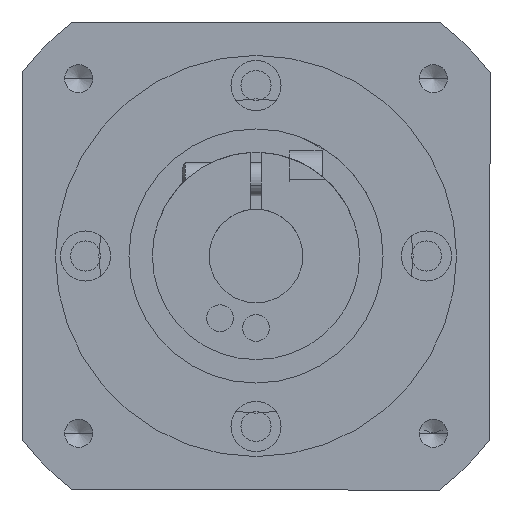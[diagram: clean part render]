
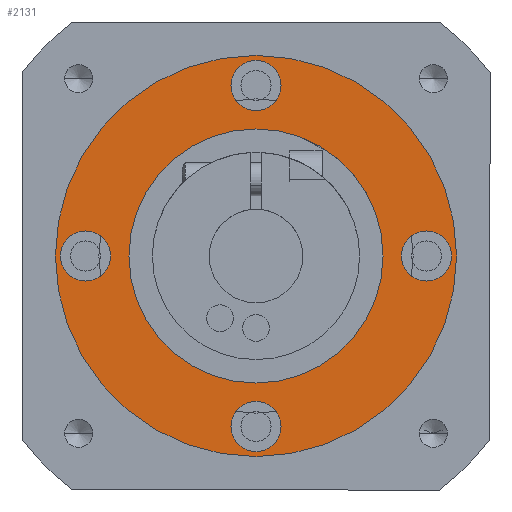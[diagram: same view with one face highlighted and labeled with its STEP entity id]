
A CAD part, front view. The second image highlights one B-rep face of the part: STEP entity #2131.
In plain terms, the highlighted planar face has unit normal (0, -1, 0) as drawn and (0, 0, -1) by its records, which use the part's own axes.
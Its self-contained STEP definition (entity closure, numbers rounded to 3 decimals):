
#125 = CARTESIAN_POINT ( 'NONE',  ( 0., 0., -17.5 ) ) ;
#132 = VERTEX_POINT ( 'NONE', #1446 ) ;
#208 = CARTESIAN_POINT ( 'NONE',  ( -25.5, 0., -17.5 ) ) ;
#265 = CARTESIAN_POINT ( 'NONE',  ( 0., -25.5, -17.5 ) ) ;
#336 = EDGE_CURVE ( 'NONE', #132, #1273, #7730, .T. ) ;
#480 = EDGE_LOOP ( 'NONE', ( #8287, #1476 ) ) ;
#507 = EDGE_CURVE ( 'NONE', #5458, #3263, #1669, .T. ) ;
#509 = AXIS2_PLACEMENT_3D ( 'NONE', #4127, #9817, #4950 ) ;
#687 = CARTESIAN_POINT ( 'NONE',  ( 0., 0., -17.5 ) ) ;
#744 = CIRCLE ( 'NONE', #7237, 3.75 ) ;
#904 = DIRECTION ( 'NONE',  ( 1., 0., 0. ) ) ;
#984 = AXIS2_PLACEMENT_3D ( 'NONE', #2130, #6976, #2975 ) ;
#1055 = DIRECTION ( 'NONE',  ( -1., 0., 0. ) ) ;
#1090 = CARTESIAN_POINT ( 'NONE',  ( 30., 0., -17.5 ) ) ;
#1100 = EDGE_CURVE ( 'NONE', #1273, #132, #744, .T. ) ;
#1273 = VERTEX_POINT ( 'NONE', #5628 ) ;
#1446 = CARTESIAN_POINT ( 'NONE',  ( -3.75, 25.5, -17.5 ) ) ;
#1453 = EDGE_CURVE ( 'NONE', #9271, #7217, #5996, .T. ) ;
#1476 = ORIENTED_EDGE ( 'NONE', *, *, #1100, .F. ) ;
#1514 = DIRECTION ( 'NONE',  ( 0., 0., -1. ) ) ;
#1669 = CIRCLE ( 'NONE', #8427, 30. ) ;
#1686 = AXIS2_PLACEMENT_3D ( 'NONE', #208, #9849, #4169 ) ;
#1755 = CARTESIAN_POINT ( 'NONE',  ( 19., 0., -17.5 ) ) ;
#1923 = VERTEX_POINT ( 'NONE', #1755 ) ;
#2034 = DIRECTION ( 'NONE',  ( 0., 0., 1. ) ) ;
#2093 = CIRCLE ( 'NONE', #1686, 3.75 ) ;
#2099 = FACE_BOUND ( 'NONE', #7232, .T. ) ;
#2130 = CARTESIAN_POINT ( 'NONE',  ( 0., -19., -17.5 ) ) ;
#2131 = ADVANCED_FACE ( 'NONE', ( #6375, #2099, #4462, #10440, #8277, #6116 ), #2165, .T. ) ;
#2165 = PLANE ( 'NONE',  #984 ) ;
#2205 = EDGE_LOOP ( 'NONE', ( #7169, #2613 ) ) ;
#2206 = DIRECTION ( 'NONE',  ( 0., 0., -1. ) ) ;
#2613 = ORIENTED_EDGE ( 'NONE', *, *, #8467, .F. ) ;
#2616 = VERTEX_POINT ( 'NONE', #2734 ) ;
#2674 = EDGE_CURVE ( 'NONE', #2616, #7404, #2093, .T. ) ;
#2734 = CARTESIAN_POINT ( 'NONE',  ( -29.25, 0., -17.5 ) ) ;
#2975 = DIRECTION ( 'NONE',  ( -1., 0., 0. ) ) ;
#2992 = DIRECTION ( 'NONE',  ( 0., 0., -1. ) ) ;
#3121 = AXIS2_PLACEMENT_3D ( 'NONE', #6319, #1514, #7140 ) ;
#3223 = AXIS2_PLACEMENT_3D ( 'NONE', #265, #5861, #1055 ) ;
#3263 = VERTEX_POINT ( 'NONE', #1090 ) ;
#3494 = CARTESIAN_POINT ( 'NONE',  ( 25.5, 0., -17.5 ) ) ;
#3513 = AXIS2_PLACEMENT_3D ( 'NONE', #125, #5715, #904 ) ;
#3542 = CARTESIAN_POINT ( 'NONE',  ( -30., 0., -17.5 ) ) ;
#3572 = CARTESIAN_POINT ( 'NONE',  ( 21.75, 0., -17.5 ) ) ;
#3741 = CARTESIAN_POINT ( 'NONE',  ( 0., 0., -17.5 ) ) ;
#3786 = EDGE_CURVE ( 'NONE', #8424, #1923, #4068, .T. ) ;
#4034 = CIRCLE ( 'NONE', #6818, 3.75 ) ;
#4068 = CIRCLE ( 'NONE', #6467, 19. ) ;
#4118 = CARTESIAN_POINT ( 'NONE',  ( 0., 25.5, -17.5 ) ) ;
#4122 = VERTEX_POINT ( 'NONE', #8357 ) ;
#4127 = CARTESIAN_POINT ( 'NONE',  ( -25.5, 0., -17.5 ) ) ;
#4128 = EDGE_LOOP ( 'NONE', ( #6112, #6707 ) ) ;
#4169 = DIRECTION ( 'NONE',  ( -1., 0., 0. ) ) ;
#4281 = DIRECTION ( 'NONE',  ( -1., 0., 0. ) ) ;
#4419 = CIRCLE ( 'NONE', #3121, 3.75 ) ;
#4462 = FACE_BOUND ( 'NONE', #4128, .T. ) ;
#4541 = DIRECTION ( 'NONE',  ( 1., 0., 0. ) ) ;
#4601 = AXIS2_PLACEMENT_3D ( 'NONE', #7830, #2992, #8624 ) ;
#4636 = EDGE_CURVE ( 'NONE', #3263, #5458, #8007, .T. ) ;
#4939 = DIRECTION ( 'NONE',  ( -1., 0., 0. ) ) ;
#4950 = DIRECTION ( 'NONE',  ( -1., 0., 0. ) ) ;
#4991 = ORIENTED_EDGE ( 'NONE', *, *, #507, .F. ) ;
#5000 = EDGE_CURVE ( 'NONE', #1923, #8424, #7358, .T. ) ;
#5170 = EDGE_CURVE ( 'NONE', #7994, #4122, #4419, .T. ) ;
#5359 = AXIS2_PLACEMENT_3D ( 'NONE', #4118, #9804, #4939 ) ;
#5458 = VERTEX_POINT ( 'NONE', #3542 ) ;
#5494 = DIRECTION ( 'NONE',  ( 1., 0., 0. ) ) ;
#5628 = CARTESIAN_POINT ( 'NONE',  ( 3.75, 25.5, -17.5 ) ) ;
#5715 = DIRECTION ( 'NONE',  ( 0., 0., 1. ) ) ;
#5861 = DIRECTION ( 'NONE',  ( 0., 0., -1. ) ) ;
#5994 = EDGE_CURVE ( 'NONE', #4122, #7994, #4034, .T. ) ;
#5996 = CIRCLE ( 'NONE', #3223, 3.75 ) ;
#6112 = ORIENTED_EDGE ( 'NONE', *, *, #5170, .F. ) ;
#6116 = FACE_OUTER_BOUND ( 'NONE', #10377, .T. ) ;
#6160 = EDGE_LOOP ( 'NONE', ( #7736, #7124 ) ) ;
#6284 = CARTESIAN_POINT ( 'NONE',  ( -3.75, -25.5, -17.5 ) ) ;
#6319 = CARTESIAN_POINT ( 'NONE',  ( 25.5, 0., -17.5 ) ) ;
#6372 = ORIENTED_EDGE ( 'NONE', *, *, #4636, .F. ) ;
#6375 = FACE_BOUND ( 'NONE', #2205, .T. ) ;
#6403 = ORIENTED_EDGE ( 'NONE', *, *, #1453, .F. ) ;
#6437 = CARTESIAN_POINT ( 'NONE',  ( 3.75, -25.5, -17.5 ) ) ;
#6467 = AXIS2_PLACEMENT_3D ( 'NONE', #687, #7213, #5494 ) ;
#6506 = CARTESIAN_POINT ( 'NONE',  ( -19., 0., -17.5 ) ) ;
#6707 = ORIENTED_EDGE ( 'NONE', *, *, #5994, .F. ) ;
#6818 = AXIS2_PLACEMENT_3D ( 'NONE', #3494, #9157, #4281 ) ;
#6839 = CARTESIAN_POINT ( 'NONE',  ( 0., 0., -17.5 ) ) ;
#6976 = DIRECTION ( 'NONE',  ( 0., 0., -1. ) ) ;
#7014 = CARTESIAN_POINT ( 'NONE',  ( 0., 25.5, -17.5 ) ) ;
#7124 = ORIENTED_EDGE ( 'NONE', *, *, #3786, .T. ) ;
#7140 = DIRECTION ( 'NONE',  ( -1., 0., 0. ) ) ;
#7169 = ORIENTED_EDGE ( 'NONE', *, *, #2674, .F. ) ;
#7213 = DIRECTION ( 'NONE',  ( 0., 0., 1. ) ) ;
#7217 = VERTEX_POINT ( 'NONE', #6437 ) ;
#7232 = EDGE_LOOP ( 'NONE', ( #6403, #7483 ) ) ;
#7237 = AXIS2_PLACEMENT_3D ( 'NONE', #7014, #2206, #7846 ) ;
#7358 = CIRCLE ( 'NONE', #8178, 19. ) ;
#7404 = VERTEX_POINT ( 'NONE', #8378 ) ;
#7483 = ORIENTED_EDGE ( 'NONE', *, *, #8739, .F. ) ;
#7645 = CIRCLE ( 'NONE', #4601, 3.75 ) ;
#7674 = DIRECTION ( 'NONE',  ( 1., 0., 0. ) ) ;
#7730 = CIRCLE ( 'NONE', #5359, 3.75 ) ;
#7736 = ORIENTED_EDGE ( 'NONE', *, *, #5000, .T. ) ;
#7830 = CARTESIAN_POINT ( 'NONE',  ( 0., -25.5, -17.5 ) ) ;
#7846 = DIRECTION ( 'NONE',  ( -1., 0., 0. ) ) ;
#7994 = VERTEX_POINT ( 'NONE', #3572 ) ;
#8007 = CIRCLE ( 'NONE', #3513, 30. ) ;
#8030 = CIRCLE ( 'NONE', #509, 3.75 ) ;
#8178 = AXIS2_PLACEMENT_3D ( 'NONE', #3741, #9416, #4541 ) ;
#8277 = FACE_BOUND ( 'NONE', #6160, .T. ) ;
#8287 = ORIENTED_EDGE ( 'NONE', *, *, #336, .F. ) ;
#8357 = CARTESIAN_POINT ( 'NONE',  ( 29.25, 0., -17.5 ) ) ;
#8378 = CARTESIAN_POINT ( 'NONE',  ( -21.75, 0., -17.5 ) ) ;
#8424 = VERTEX_POINT ( 'NONE', #6506 ) ;
#8427 = AXIS2_PLACEMENT_3D ( 'NONE', #6839, #2034, #7674 ) ;
#8467 = EDGE_CURVE ( 'NONE', #7404, #2616, #8030, .T. ) ;
#8624 = DIRECTION ( 'NONE',  ( -1., 0., 0. ) ) ;
#8739 = EDGE_CURVE ( 'NONE', #7217, #9271, #7645, .T. ) ;
#9157 = DIRECTION ( 'NONE',  ( 0., 0., -1. ) ) ;
#9271 = VERTEX_POINT ( 'NONE', #6284 ) ;
#9416 = DIRECTION ( 'NONE',  ( 0., 0., 1. ) ) ;
#9804 = DIRECTION ( 'NONE',  ( 0., 0., -1. ) ) ;
#9817 = DIRECTION ( 'NONE',  ( 0., 0., -1. ) ) ;
#9849 = DIRECTION ( 'NONE',  ( 0., 0., -1. ) ) ;
#10377 = EDGE_LOOP ( 'NONE', ( #6372, #4991 ) ) ;
#10440 = FACE_BOUND ( 'NONE', #480, .T. ) ;
